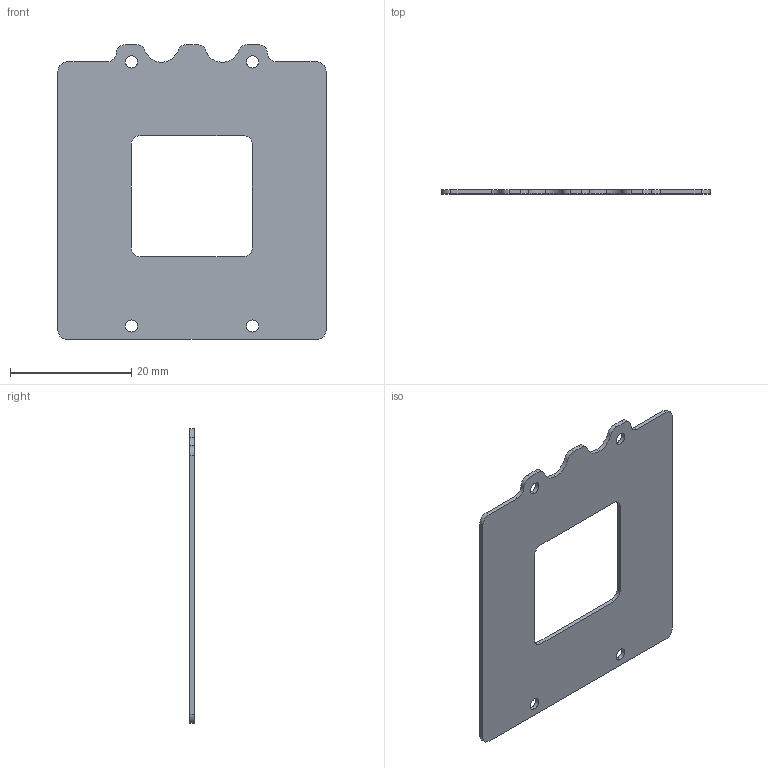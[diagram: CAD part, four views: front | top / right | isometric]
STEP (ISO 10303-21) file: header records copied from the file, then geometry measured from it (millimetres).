
FILE_DESCRIPTION (( 'STEP AP214' ), '1' );
FILE_NAME ('LSQF-XX-045-1-POLARIZER.STEP', '2021-11-05T02:07:49', ( '' ), ( '' ), 'SwSTEP 2.0', 'SolidWorks 2021', '' );
FILE_SCHEMA (( 'AUTOMOTIVE_DESIGN' ));
Length unit declared in the file: millimetre
Products named in the file (1): LSQF-XX-045-1-POLARIZER
Bounding box: 44.3 x 0.7 x 48.65 mm (x, y, z)
Volume: 1162.1 mm3; surface area: 3521.9 mm2
Topology: 1 solids, 1 shells, 42 faces, 120 edges, 80 vertices
Faces by surface type: cylinder 28, plane 14
Entity records: 1454 total; most frequent: DIRECTION 262, CARTESIAN_POINT 243, ORIENTED_EDGE 240, EDGE_CURVE 120, AXIS2_PLACEMENT_3D 99, VERTEX_POINT 80, VECTOR 64, LINE 64
